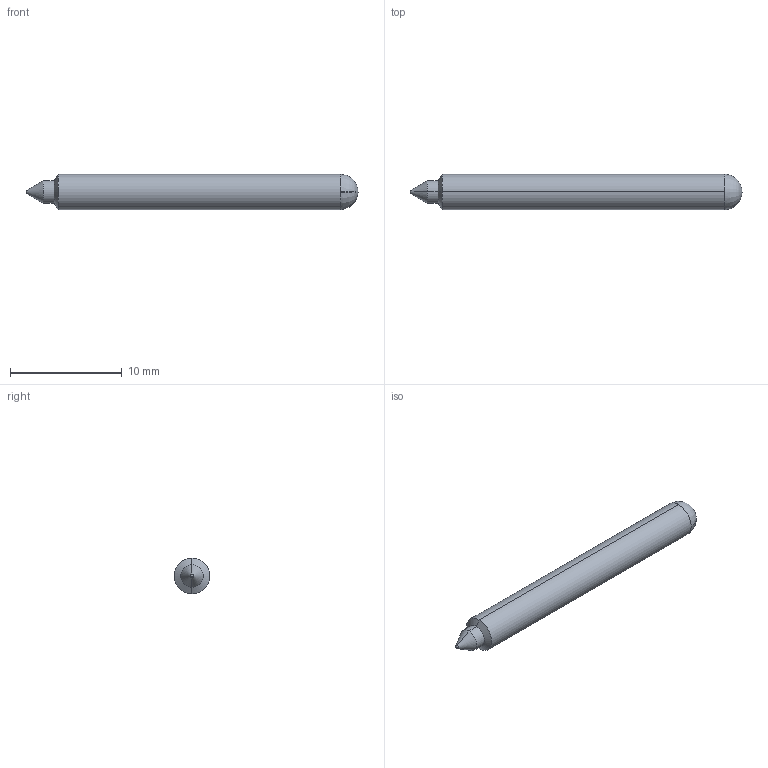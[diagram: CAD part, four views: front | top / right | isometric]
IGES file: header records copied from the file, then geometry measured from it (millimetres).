
Start section: SolidWorks IGES file using analytic representation for surfaces
Global section: file name: Z:\probe solid model mockups\Solidworks models\IGES Files\HCP-15 IGES files\HCP-15B Full.IGS; native system: SolidWorks 2006 by SolidWorks Corporation; preprocessor: SolidWorks 2006 by SolidWorks Corporation; author: tsakatani; date: 071202.143757; units: inch
Bounding box: 29.72 x 3.17 x 3.17 mm (x, y, z)
Surface area: 285.9 mm2 (no closed solid volume)
Topology: 0 solids, 0 shells, 12 faces, 56 edges, 52 vertices
Faces by surface type: revolution 12
